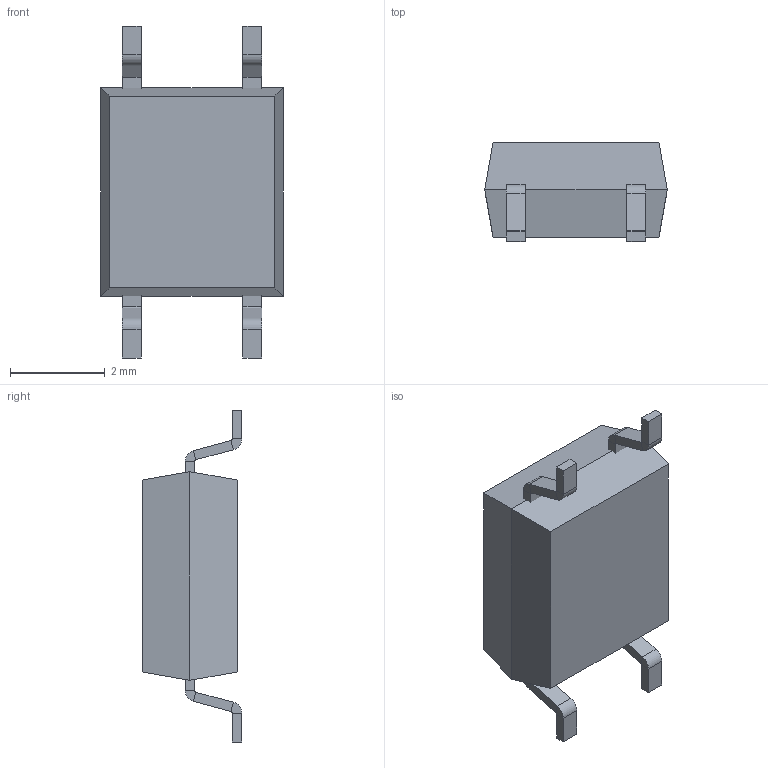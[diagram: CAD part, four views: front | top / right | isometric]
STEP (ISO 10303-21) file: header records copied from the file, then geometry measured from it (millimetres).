
FILE_DESCRIPTION (( 'STEP AP214' ), '1' );
FILE_NAME ('SOP-4V1.STEP', '2015-12-12T22:09:27', ( '' ), ( '' ), 'SwSTEP 2.0', 'SolidWorks 2015', '' );
FILE_SCHEMA (( 'AUTOMOTIVE_DESIGN' ));
Length unit declared in the file: millimetre
Products named in the file (2): SOP-4V1
Bounding box: 3.85 x 2.09 x 7 mm (x, y, z)
Volume: 33.9 mm3; surface area: 95.4 mm2
Topology: 2 solids, 2 shells, 91 faces, 190 edges, 104 vertices
Faces by surface type: plane 73, cylinder 18
Entity records: 2517 total; most frequent: DIRECTION 412, CARTESIAN_POINT 387, ORIENTED_EDGE 380, EDGE_CURVE 190, LINE 154, VECTOR 154, AXIS2_PLACEMENT_3D 129, VERTEX_POINT 104
